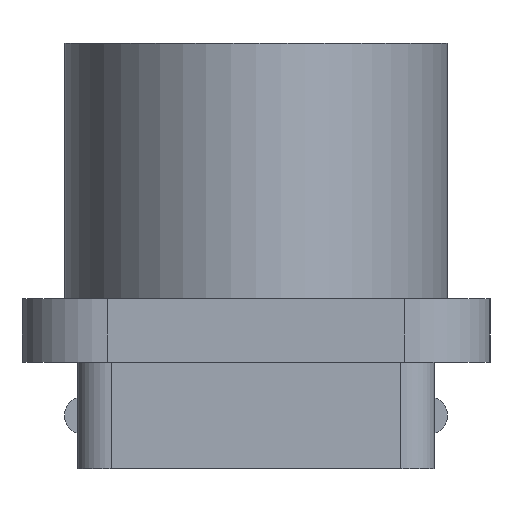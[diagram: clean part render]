
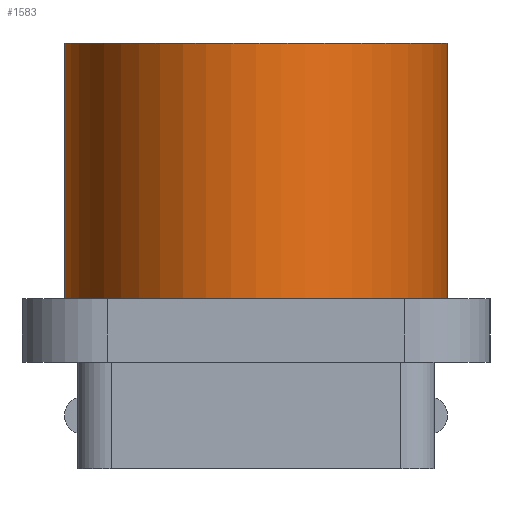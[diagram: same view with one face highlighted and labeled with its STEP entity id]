
A CAD part, left-side view. The second image highlights one B-rep face of the part: STEP entity #1583.
In plain terms, the highlighted face is a extrusion surface.
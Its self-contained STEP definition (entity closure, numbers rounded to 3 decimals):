
#100 = PLANE('',#101);
#101 = AXIS2_PLACEMENT_3D('',#102,#103,#104);
#102 = CARTESIAN_POINT('',(0.,0.,4.));
#103 = DIRECTION('',(0.,0.,1.));
#104 = DIRECTION('',(1.,0.,-0.));
#795 = EDGE_CURVE('',#796,#796,#798,.T.);
#796 = VERTEX_POINT('',#797);
#797 = CARTESIAN_POINT('',(6.,0.,4.));
#798 = SURFACE_CURVE('',#799,(#804,#811),.PCURVE_S1.);
#799 = ELLIPSE('',#800,6.,4.5);
#800 = AXIS2_PLACEMENT_3D('',#801,#802,#803);
#801 = CARTESIAN_POINT('',(0.,0.,4.));
#802 = DIRECTION('',(0.,0.,1.));
#803 = DIRECTION('',(1.,0.,0.));
#804 = PCURVE('',#100,#805);
#805 = DEFINITIONAL_REPRESENTATION('',(#806),#810);
#806 = ELLIPSE('',#807,6.,4.5);
#807 = AXIS2_PLACEMENT_2D('',#808,#809);
#808 = CARTESIAN_POINT('',(0.,0.));
#809 = DIRECTION('',(1.,0.));
#810 = ( GEOMETRIC_REPRESENTATION_CONTEXT(2) 
PARAMETRIC_REPRESENTATION_CONTEXT() REPRESENTATION_CONTEXT('2D SPACE',''
  ) );
#811 = PCURVE('',#812,#820);
#812 = SURFACE_OF_LINEAR_EXTRUSION('',#813,#818);
#813 = ELLIPSE('',#814,6.,4.5);
#814 = AXIS2_PLACEMENT_3D('',#815,#816,#817);
#815 = CARTESIAN_POINT('',(0.,0.,4.));
#816 = DIRECTION('',(0.,0.,1.));
#817 = DIRECTION('',(1.,0.,0.));
#818 = VECTOR('',#819,1.);
#819 = DIRECTION('',(-0.,-0.,-1.));
#820 = DEFINITIONAL_REPRESENTATION('',(#821),#825);
#821 = LINE('',#822,#823);
#822 = CARTESIAN_POINT('',(0.,0.));
#823 = VECTOR('',#824,1.);
#824 = DIRECTION('',(1.,0.));
#825 = ( GEOMETRIC_REPRESENTATION_CONTEXT(2) 
PARAMETRIC_REPRESENTATION_CONTEXT() REPRESENTATION_CONTEXT('2D SPACE',''
  ) );
#1583 = ADVANCED_FACE('',(#1584),#812,.F.);
#1584 = FACE_BOUND('',#1585,.F.);
#1585 = EDGE_LOOP('',(#1586,#1609,#1636,#1637));
#1586 = ORIENTED_EDGE('',*,*,#1587,.T.);
#1587 = EDGE_CURVE('',#796,#1588,#1590,.T.);
#1588 = VERTEX_POINT('',#1589);
#1589 = CARTESIAN_POINT('',(6.,0.,10.));
#1590 = SEAM_CURVE('',#1591,(#1595,#1602),.PCURVE_S1.);
#1591 = LINE('',#1592,#1593);
#1592 = CARTESIAN_POINT('',(6.,0.,4.));
#1593 = VECTOR('',#1594,1.);
#1594 = DIRECTION('',(0.,0.,1.));
#1595 = PCURVE('',#812,#1596);
#1596 = DEFINITIONAL_REPRESENTATION('',(#1597),#1601);
#1597 = LINE('',#1598,#1599);
#1598 = CARTESIAN_POINT('',(0.,0.));
#1599 = VECTOR('',#1600,1.);
#1600 = DIRECTION('',(0.,-1.));
#1601 = ( GEOMETRIC_REPRESENTATION_CONTEXT(2) 
PARAMETRIC_REPRESENTATION_CONTEXT() REPRESENTATION_CONTEXT('2D SPACE',''
  ) );
#1602 = PCURVE('',#812,#1603);
#1603 = DEFINITIONAL_REPRESENTATION('',(#1604),#1608);
#1604 = LINE('',#1605,#1606);
#1605 = CARTESIAN_POINT('',(6.283,0.));
#1606 = VECTOR('',#1607,1.);
#1607 = DIRECTION('',(0.,-1.));
#1608 = ( GEOMETRIC_REPRESENTATION_CONTEXT(2) 
PARAMETRIC_REPRESENTATION_CONTEXT() REPRESENTATION_CONTEXT('2D SPACE',''
  ) );
#1609 = ORIENTED_EDGE('',*,*,#1610,.T.);
#1610 = EDGE_CURVE('',#1588,#1588,#1611,.T.);
#1611 = SURFACE_CURVE('',#1612,(#1617,#1624),.PCURVE_S1.);
#1612 = ELLIPSE('',#1613,6.,4.5);
#1613 = AXIS2_PLACEMENT_3D('',#1614,#1615,#1616);
#1614 = CARTESIAN_POINT('',(0.,0.,10.));
#1615 = DIRECTION('',(0.,0.,1.));
#1616 = DIRECTION('',(1.,0.,0.));
#1617 = PCURVE('',#812,#1618);
#1618 = DEFINITIONAL_REPRESENTATION('',(#1619),#1623);
#1619 = LINE('',#1620,#1621);
#1620 = CARTESIAN_POINT('',(0.,-6.));
#1621 = VECTOR('',#1622,1.);
#1622 = DIRECTION('',(1.,0.));
#1623 = ( GEOMETRIC_REPRESENTATION_CONTEXT(2) 
PARAMETRIC_REPRESENTATION_CONTEXT() REPRESENTATION_CONTEXT('2D SPACE',''
  ) );
#1624 = PCURVE('',#1625,#1630);
#1625 = PLANE('',#1626);
#1626 = AXIS2_PLACEMENT_3D('',#1627,#1628,#1629);
#1627 = CARTESIAN_POINT('',(0.22,0.,10.));
#1628 = DIRECTION('',(0.,0.,1.));
#1629 = DIRECTION('',(1.,0.,-0.));
#1630 = DEFINITIONAL_REPRESENTATION('',(#1631),#1635);
#1631 = ELLIPSE('',#1632,6.,4.5);
#1632 = AXIS2_PLACEMENT_2D('',#1633,#1634);
#1633 = CARTESIAN_POINT('',(-0.22,0.));
#1634 = DIRECTION('',(1.,0.));
#1635 = ( GEOMETRIC_REPRESENTATION_CONTEXT(2) 
PARAMETRIC_REPRESENTATION_CONTEXT() REPRESENTATION_CONTEXT('2D SPACE',''
  ) );
#1636 = ORIENTED_EDGE('',*,*,#1587,.F.);
#1637 = ORIENTED_EDGE('',*,*,#795,.F.);
